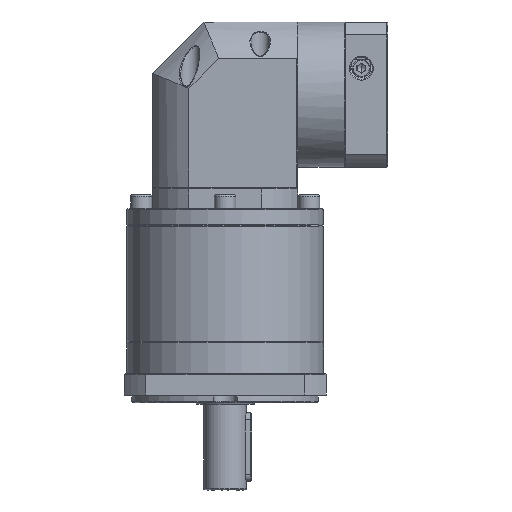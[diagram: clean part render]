
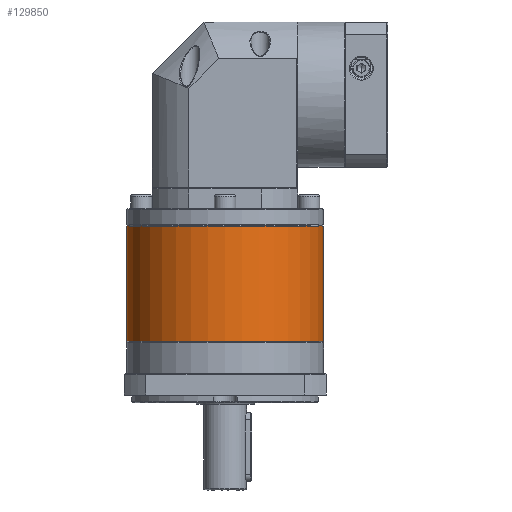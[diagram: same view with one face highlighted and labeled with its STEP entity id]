
A CAD part, front view. The second image highlights one B-rep face of the part: STEP entity #129850.
In plain terms, the highlighted cylindrical face has radius 57.5 mm (diameter 115 mm), a partial arc.
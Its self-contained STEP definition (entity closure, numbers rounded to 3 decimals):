
#5159 = DIRECTION ( 'NONE',  ( 0., 0., -1. ) ) ;
#6828 = EDGE_CURVE ( 'NONE', #129559, #93711, #49885, .T. ) ;
#7612 = CIRCLE ( 'NONE', #34408, 57.5 ) ;
#11733 = CYLINDRICAL_SURFACE ( 'NONE', #123436, 57.5 ) ;
#12812 = CARTESIAN_POINT ( 'NONE',  ( 109.565, 74.506, -90.935 ) ) ;
#13097 = DIRECTION ( 'NONE',  ( 0., 0., -1. ) ) ;
#15468 = DIRECTION ( 'NONE',  ( -1., 0., 0. ) ) ;
#17242 = VERTEX_POINT ( 'NONE', #63933 ) ;
#20759 = DIRECTION ( 'NONE',  ( 0., 0., -1. ) ) ;
#22281 = EDGE_CURVE ( 'NONE', #30049, #93704, #77952, .T. ) ;
#24149 = ORIENTED_EDGE ( 'NONE', *, *, #48331, .T. ) ;
#28012 = DIRECTION ( 'NONE',  ( -1., 0., 0. ) ) ;
#30049 = VERTEX_POINT ( 'NONE', #69686 ) ;
#34408 = AXIS2_PLACEMENT_3D ( 'NONE', #58773, #92794, #28012 ) ;
#36902 = CARTESIAN_POINT ( 'NONE',  ( -5.435, 74.506, -158.146 ) ) ;
#43033 = EDGE_CURVE ( 'NONE', #129559, #17242, #7612, .T. ) ;
#48331 = EDGE_CURVE ( 'NONE', #17242, #30049, #108483, .T. ) ;
#49353 = DIRECTION ( 'NONE',  ( 0., 0., -1. ) ) ;
#49885 = LINE ( 'NONE', #98184, #104156 ) ;
#51336 = DIRECTION ( 'NONE',  ( 0., 0., 1. ) ) ;
#51456 = ORIENTED_EDGE ( 'NONE', *, *, #6828, .F. ) ;
#58773 = CARTESIAN_POINT ( 'NONE',  ( 52.065, 74.506, -90.935 ) ) ;
#63447 = AXIS2_PLACEMENT_3D ( 'NONE', #107316, #20759, #139478 ) ;
#63933 = CARTESIAN_POINT ( 'NONE',  ( 52.065, 17.006, -90.935 ) ) ;
#69686 = CARTESIAN_POINT ( 'NONE',  ( -5.435, 74.506, -90.935 ) ) ;
#69728 = EDGE_CURVE ( 'NONE', #93704, #93711, #87720, .T. ) ;
#76884 = AXIS2_PLACEMENT_3D ( 'NONE', #116671, #51336, #127089 ) ;
#77952 = LINE ( 'NONE', #134675, #105188 ) ;
#87520 = ORIENTED_EDGE ( 'NONE', *, *, #69728, .T. ) ;
#87720 = CIRCLE ( 'NONE', #76884, 57.5 ) ;
#89363 = FACE_OUTER_BOUND ( 'NONE', #97934, .T. ) ;
#91309 = CARTESIAN_POINT ( 'NONE',  ( 109.565, 74.506, -158.146 ) ) ;
#92794 = DIRECTION ( 'NONE',  ( 0., 0., -1. ) ) ;
#93704 = VERTEX_POINT ( 'NONE', #36902 ) ;
#93711 = VERTEX_POINT ( 'NONE', #91309 ) ;
#97934 = EDGE_LOOP ( 'NONE', ( #51456, #139553, #24149, #134784, #87520 ) ) ;
#98184 = CARTESIAN_POINT ( 'NONE',  ( 109.565, 74.506, -90.435 ) ) ;
#104156 = VECTOR ( 'NONE', #13097, 1000. ) ;
#105188 = VECTOR ( 'NONE', #5159, 1000. ) ;
#107316 = CARTESIAN_POINT ( 'NONE',  ( 52.065, 74.506, -90.935 ) ) ;
#108483 = CIRCLE ( 'NONE', #63447, 57.5 ) ;
#110531 = CARTESIAN_POINT ( 'NONE',  ( 52.065, 74.506, -90.435 ) ) ;
#116671 = CARTESIAN_POINT ( 'NONE',  ( 52.065, 74.506, -158.146 ) ) ;
#123436 = AXIS2_PLACEMENT_3D ( 'NONE', #110531, #49353, #15468 ) ;
#127089 = DIRECTION ( 'NONE',  ( -1., 0., 0. ) ) ;
#129559 = VERTEX_POINT ( 'NONE', #12812 ) ;
#129850 = ADVANCED_FACE ( 'NONE', ( #89363 ), #11733, .T. ) ;
#134675 = CARTESIAN_POINT ( 'NONE',  ( -5.435, 74.506, -90.435 ) ) ;
#134784 = ORIENTED_EDGE ( 'NONE', *, *, #22281, .T. ) ;
#139478 = DIRECTION ( 'NONE',  ( -1., 0., 0. ) ) ;
#139553 = ORIENTED_EDGE ( 'NONE', *, *, #43033, .T. ) ;
